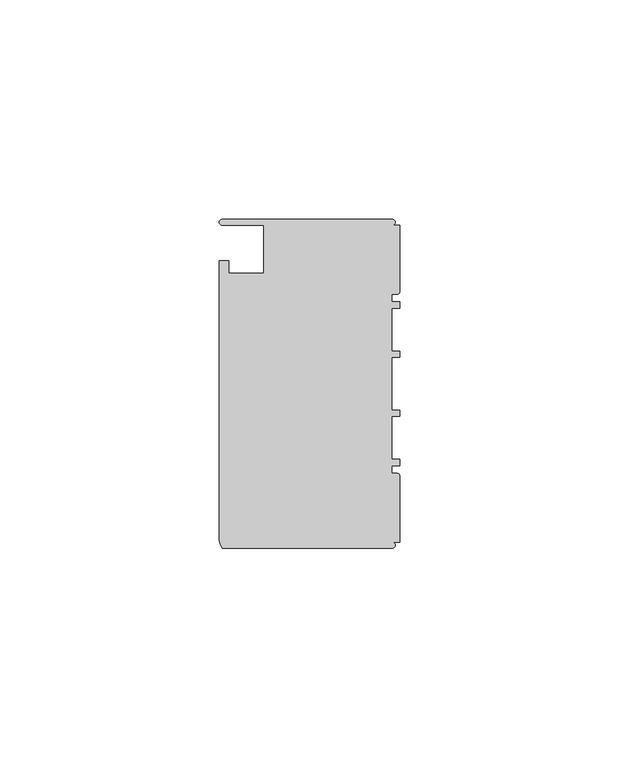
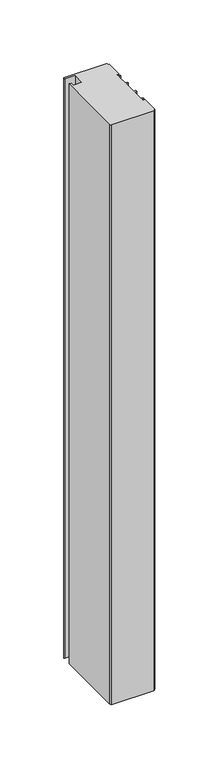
"""IFC4 building model written with IfcOpenShell, lengths in millimetres: member geometry, Прямоугольный импост : 1-AMG-1-Профиль 40Х75 Низ Л."""

from ifc_helpers import new_model, si_unit, point, frame, frame_2d, origin, place, context, project, spatial, polyline, circle_curve, trimmed, segment, composite_curve, outline, extrude, source, transform, mapped, element, save


def member_008be93e(model_context):
    return source(origin(), model_context, "Body", "SweptSolid", [
        extrude(outline(composite_curve([segment(polyline([(37.5, -1.7), (37.5, -40.4)]), True, "CONTINUOUS"), segment(trimmed(circle_curve(frame_2d((36.8, -40.4)), 0.7), [point((37.5, -40.4))], [point((36.1, -40.4))], False, "CARTESIAN"), True, "CONTINUOUS"), segment(polyline([(36.1, -40.4), (36.1, -31.0), (25.25, -31.0), (25.25, -39.0), (28.1, -39.0), (28.1, -41.1), (-35.6, -41.1)]), True, "CONTINUOUS"), segment(trimmed(circle_curve(frame_2d((-35.6, -38.1714286)), 2.9285714), [point((-35.6, -41.1))], [point((-37.5, -40.4))], False, "CARTESIAN"), True, "CONTINUOUS"), segment(polyline([(-37.5, -40.4), (-37.5, -1.7)]), True, "CONTINUOUS"), segment(trimmed(circle_curve(frame_2d((-36.8, -1.7)), 0.7), [point((-37.5, -1.7))], [point((-36.1, -1.7))], False, "CARTESIAN"), True, "CONTINUOUS"), segment(polyline([(-36.1, -1.7), (-36.1, 0.0), (-20.95, 0.0)]), True, "CONTINUOUS"), segment(trimmed(circle_curve(frame_2d((-20.95, -0.5)), 0.5), [point((-20.95, 0.0))], [point((-20.45, -0.5))], False, "CARTESIAN"), True, "CONTINUOUS"), segment(polyline([(-20.45, -0.5), (-20.45, -1.8), (-18.65, -1.8), (-18.65, 0.0), (-17.25, 0.0), (-17.25, -1.8), (-7.4, -1.8), (-7.4, 0.0), (-6.0, 0.0), (-6.0, -1.8), (6.0, -1.8), (6.0, 0.0), (7.4, 0.0), (7.4, -1.8), (17.25, -1.8), (17.25, 0.0), (18.65, 0.0), (18.65, -1.8), (20.45, -1.8), (20.45, -0.5)]), True, "CONTINUOUS"), segment(trimmed(circle_curve(frame_2d((20.95, -0.5)), 0.5), [point((20.45, -0.5))], [point((20.95, 0.0))], False, "CARTESIAN"), True, "CONTINUOUS"), segment(polyline([(20.95, 0.0), (36.1, 0.0), (36.1, -1.7)]), True, "CONTINUOUS"), segment(trimmed(circle_curve(frame_2d((36.8, -1.7)), 0.7), [point((36.1, -1.7))], [point((37.5, -1.7))], False, "CARTESIAN"), True, "CONTINUOUS")], self_intersect=False)), frame((0.0, 0.0, 0.0), z_axis=(0.0, 0.0, -1.0), x_axis=(0.0, 1.0, 0.0)), (0.0, 0.0, 1.0), 560.0),
    ])


if __name__ == "__main__":
    model = new_model("IFC4")
    model_context = context("Model", 3, world=origin())
    ifc_project = project(units=[si_unit("LENGTHUNIT", "METRE", prefix="MILLI")], contexts=[model_context])
    site = spatial("IfcSite", under=ifc_project)
    building = spatial("IfcBuilding", under=site)
    placement = place(None, origin())
    member_shape = member_008be93e(model_context)
    element("IfcMember", 1, ObjectType="Прямоугольный импост : 1-AMG-1-Профиль 40Х75 Низ Л", at=placement, inside=building, context=model_context, shape_type="MappedRepresentation", body=[
        mapped(member_shape, transform((0.0, 0.0, 0.0), x_axis=(1.0, 0.0, 0.0), y_axis=(0.0, 1.0, 0.0), z_axis=(0.0, 0.0, 1.0))),
    ])
    save(model, "model.ifc")
